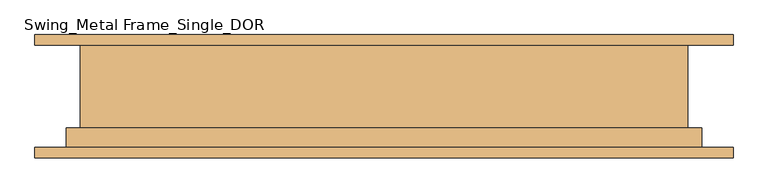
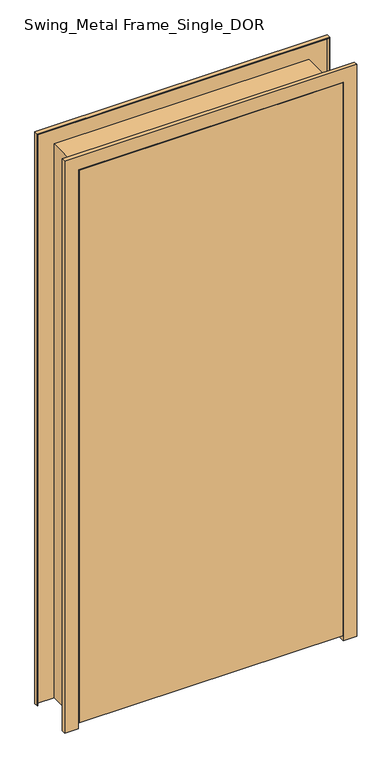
"""IFC4 building model written with IfcOpenShell, lengths in millimetres: door geometry, Swing_Metal Frame_Single_DOR : 2040h x 920 (2110x1020 STUD)."""

from ifc_helpers import new_model, si_unit, frame, origin, place, context, project, spatial, polyline, outline, extrude, faceted_brep, source, transform, mapped, element, save


def swing_metal_frame_single_dor_07caf723(model_context):
    return source(origin(), model_context, "Body", "SolidModel", [
        extrude(outline(polyline([(460.0, -90.0), (-460.0, -90.0), (-460.0, -50.0), (460.0, -50.0), (460.0, -90.0)])), frame((0.0, 0.0, 20.0), z_axis=(0.0, 0.0, 1.0), x_axis=(1.0, 0.0, 0.0)), (0.0, 0.0, 1.0), 2040.0),
        faceted_brep([(-510.0, 90.0, 0.0), (-442.0, 90.0, 0.0), (-442.0, -48.0, 0.0), (-462.0, -48.0, 0.0), (-462.0, -90.0, 0.0), (-510.0, -90.0, 0.0), (-510.0, -75.0, 0.0), (-508.0, -75.0, 0.0), (-508.0, -88.0, 0.0), (-464.0, -88.0, 0.0), (-464.0, -46.0, 0.0), (-444.0, -46.0, 0.0), (-444.0, 88.0, 0.0), (-508.0, 88.0, 0.0), (-508.0, 75.0, 0.0), (-510.0, 75.0, 0.0), (-510.0, 75.0, 2110.0), (-510.0, 90.0, 2110.0), (-508.0, 75.0, 2108.0), (508.0, 75.0, 2108.0), (508.0, 75.0, 0.0), (510.0, 75.0, 0.0), (510.0, 75.0, 2110.0), (-508.0, 88.0, 2108.0), (-444.0, 88.0, 2044.0), (444.0, 88.0, 2044.0), (444.0, 88.0, 0.0), (508.0, 88.0, 0.0), (508.0, 88.0, 2108.0), (-444.0, -46.0, 2044.0), (-464.0, -46.0, 2064.0), (464.0, -46.0, 2064.0), (464.0, -46.0, 0.0), (444.0, -46.0, 0.0), (444.0, -46.0, 2044.0), (-464.0, -88.0, 2064.0), (-508.0, -88.0, 2108.0), (508.0, -88.0, 2108.0), (508.0, -88.0, 0.0), (464.0, -88.0, 0.0), (464.0, -88.0, 2064.0), (-508.0, -75.0, 2108.0), (-510.0, -75.0, 2110.0), (510.0, -75.0, 2110.0), (510.0, -75.0, 0.0), (508.0, -75.0, 0.0), (508.0, -75.0, 2108.0), (-510.0, -90.0, 2110.0), (-462.0, -90.0, 2062.0), (462.0, -90.0, 2062.0), (462.0, -90.0, 0.0), (510.0, -90.0, 0.0), (510.0, -90.0, 2110.0), (-462.0, -48.0, 2062.0), (-442.0, -48.0, 2042.0), (442.0, -48.0, 2042.0), (442.0, -48.0, 0.0), (462.0, -48.0, 0.0), (462.0, -48.0, 2062.0), (-442.0, 90.0, 2042.0), (510.0, 90.0, 2110.0), (510.0, 90.0, 0.0), (442.0, 90.0, 0.0), (442.0, 90.0, 2042.0)], [[[0, 1, 2, 3, 4, 5, 6, 7, 8, 9, 10, 11, 12, 13, 14, 15]], [[15, 16, 17, 0]], [[14, 18, 19, 20, 21, 22, 16, 15]], [[13, 23, 18, 14]], [[12, 24, 25, 26, 27, 28, 23, 13]], [[11, 29, 24, 12]], [[10, 30, 31, 32, 33, 34, 29, 11]], [[9, 35, 30, 10]], [[8, 36, 37, 38, 39, 40, 35, 9]], [[7, 41, 36, 8]], [[6, 42, 43, 44, 45, 46, 41, 7]], [[5, 47, 42, 6]], [[4, 48, 49, 50, 51, 52, 47, 5]], [[3, 53, 48, 4]], [[2, 54, 55, 56, 57, 58, 53, 3]], [[1, 59, 54, 2]], [[0, 17, 60, 61, 62, 63, 59, 1]], [[22, 21, 61, 60]], [[61, 21, 20, 27, 26, 33, 32, 39, 38, 45, 44, 51, 50, 57, 56, 62]], [[28, 27, 20, 19]], [[34, 33, 26, 25]], [[40, 39, 32, 31]], [[46, 45, 38, 37]], [[52, 51, 44, 43]], [[58, 57, 50, 49]], [[63, 62, 56, 55]], [[16, 22, 60, 17]], [[23, 28, 19, 18]], [[29, 34, 25, 24]], [[35, 40, 31, 30]], [[41, 46, 37, 36]], [[47, 52, 43, 42]], [[53, 58, 49, 48]], [[59, 63, 55, 54]]]),
    ])


if __name__ == "__main__":
    model = new_model("IFC4")
    model_context = context("Model", 3, world=origin())
    ifc_project = project(units=[si_unit("LENGTHUNIT", "METRE", prefix="MILLI")], contexts=[model_context])
    site = spatial("IfcSite", under=ifc_project)
    building = spatial("IfcBuilding", under=site)
    placement = place(None, origin())
    swing_metal_frame_single_dor_shape = swing_metal_frame_single_dor_07caf723(model_context)
    element("IfcDoor", 1, ObjectType="Swing_Metal Frame_Single_DOR : 2040h x 920 (2110x1020 STUD)", at=placement, inside=building, context=model_context, shape_type="MappedRepresentation", body=[
        mapped(swing_metal_frame_single_dor_shape, transform((0.0, 0.0, 0.0), x_axis=(1.0, 0.0, 0.0), y_axis=(0.0, 1.0, 0.0), z_axis=(0.0, 0.0, 1.0))),
    ])
    save(model, "model.ifc")
